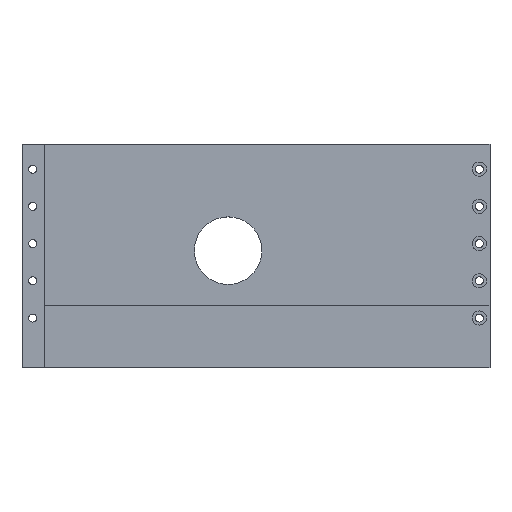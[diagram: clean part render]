
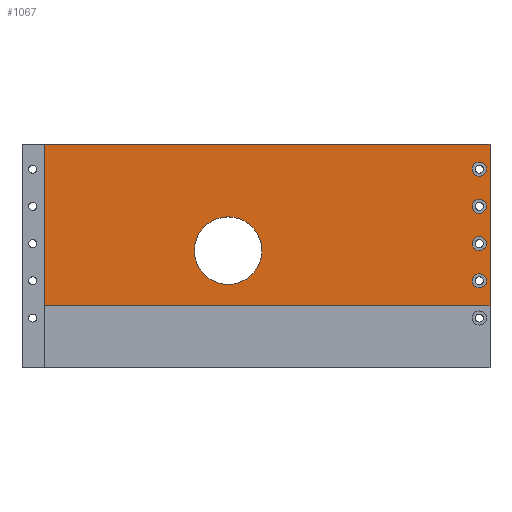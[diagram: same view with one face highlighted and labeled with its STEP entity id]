
A CAD part, top view. The second image highlights one B-rep face of the part: STEP entity #1067.
In plain terms, the highlighted planar face has unit normal (0, 0, 1).
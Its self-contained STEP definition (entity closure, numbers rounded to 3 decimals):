
#31=LINE('',#1819,#61);
#38=LINE('',#1832,#68);
#42=LINE('',#1851,#72);
#44=LINE('',#1858,#74);
#61=VECTOR('',#1524,91.);
#68=VECTOR('',#1537,251.5);
#72=VECTOR('',#1561,251.5);
#74=VECTOR('',#1571,91.);
#95=PLANE('',#1226);
#181=FACE_BOUND('',#466,.T.);
#182=FACE_BOUND('',#467,.T.);
#183=FACE_BOUND('',#468,.T.);
#184=FACE_BOUND('',#469,.T.);
#185=FACE_BOUND('',#470,.T.);
#302=FACE_OUTER_BOUND('',#465,.T.);
#465=EDGE_LOOP('',(#957,#958,#959,#960));
#466=EDGE_LOOP('',(#961));
#467=EDGE_LOOP('',(#962));
#468=EDGE_LOOP('',(#963));
#469=EDGE_LOOP('',(#964));
#470=EDGE_LOOP('',(#965));
#484=CIRCLE('',#1095,4.);
#488=CIRCLE('',#1102,4.);
#496=CIRCLE('',#1116,4.);
#500=CIRCLE('',#1123,4.);
#549=CIRCLE('',#1225,19.05);
#562=VERTEX_POINT('',#1611);
#566=VERTEX_POINT('',#1622);
#574=VERTEX_POINT('',#1644);
#578=VERTEX_POINT('',#1655);
#636=VERTEX_POINT('',#1815);
#638=VERTEX_POINT('',#1818);
#641=VERTEX_POINT('',#1831);
#646=VERTEX_POINT('',#1849);
#647=VERTEX_POINT('',#1855);
#660=EDGE_CURVE('',#562,#562,#484,.T.);
#664=EDGE_CURVE('',#566,#566,#488,.T.);
#672=EDGE_CURVE('',#574,#574,#496,.T.);
#676=EDGE_CURVE('',#578,#578,#500,.T.);
#738=EDGE_CURVE('',#638,#636,#31,.T.);
#745=EDGE_CURVE('',#638,#641,#38,.T.);
#752=EDGE_CURVE('',#636,#646,#42,.T.);
#754=EDGE_CURVE('',#647,#647,#549,.T.);
#755=EDGE_CURVE('',#641,#646,#44,.T.);
#957=ORIENTED_EDGE('',*,*,#738,.T.);
#958=ORIENTED_EDGE('',*,*,#752,.T.);
#959=ORIENTED_EDGE('',*,*,#755,.F.);
#960=ORIENTED_EDGE('',*,*,#745,.F.);
#961=ORIENTED_EDGE('',*,*,#660,.T.);
#962=ORIENTED_EDGE('',*,*,#664,.T.);
#963=ORIENTED_EDGE('',*,*,#672,.T.);
#964=ORIENTED_EDGE('',*,*,#676,.T.);
#965=ORIENTED_EDGE('',*,*,#754,.T.);
#1067=ADVANCED_FACE('',(#302,#181,#182,#183,#184,#185),#95,.T.);
#1095=AXIS2_PLACEMENT_3D('',#1612,#1278,#1279);
#1102=AXIS2_PLACEMENT_3D('',#1623,#1292,#1293);
#1116=AXIS2_PLACEMENT_3D('',#1645,#1320,#1321);
#1123=AXIS2_PLACEMENT_3D('',#1656,#1334,#1335);
#1225=AXIS2_PLACEMENT_3D('',#1856,#1567,#1568);
#1226=AXIS2_PLACEMENT_3D('',#1857,#1569,#1570);
#1278=DIRECTION('center_axis',(0.,0.,-1.));
#1279=DIRECTION('ref_axis',(1.,0.,0.));
#1292=DIRECTION('center_axis',(0.,0.,-1.));
#1293=DIRECTION('ref_axis',(1.,0.,0.));
#1320=DIRECTION('center_axis',(0.,0.,-1.));
#1321=DIRECTION('ref_axis',(1.,0.,0.));
#1334=DIRECTION('center_axis',(0.,0.,-1.));
#1335=DIRECTION('ref_axis',(1.,0.,0.));
#1524=DIRECTION('',(0.,-1.,0.));
#1537=DIRECTION('',(1.,0.,0.));
#1561=DIRECTION('',(1.,0.,0.));
#1567=DIRECTION('center_axis',(0.,0.,-1.));
#1568=DIRECTION('ref_axis',(1.,0.,0.));
#1569=DIRECTION('center_axis',(0.,0.,1.));
#1570=DIRECTION('ref_axis',(0.,-1.,0.));
#1571=DIRECTION('',(0.,-1.,0.));
#1611=CARTESIAN_POINT('',(262.,91.,15.));
#1612=CARTESIAN_POINT('Origin',(258.,91.,15.));
#1622=CARTESIAN_POINT('',(262.,49.,15.));
#1623=CARTESIAN_POINT('Origin',(258.,49.,15.));
#1644=CARTESIAN_POINT('',(262.,70.,15.));
#1645=CARTESIAN_POINT('Origin',(258.,70.,15.));
#1655=CARTESIAN_POINT('',(262.,112.,15.));
#1656=CARTESIAN_POINT('Origin',(258.,112.,15.));
#1815=CARTESIAN_POINT('',(12.5,35.,15.));
#1818=CARTESIAN_POINT('',(12.5,126.,15.));
#1819=CARTESIAN_POINT('',(12.5,126.,15.));
#1831=CARTESIAN_POINT('',(264.,126.,15.));
#1832=CARTESIAN_POINT('',(0.,126.,15.));
#1849=CARTESIAN_POINT('',(264.,35.,15.));
#1851=CARTESIAN_POINT('',(132.,35.,15.));
#1855=CARTESIAN_POINT('',(97.25,66.,15.));
#1856=CARTESIAN_POINT('Origin',(116.3,66.,15.));
#1857=CARTESIAN_POINT('Origin',(0.,126.,15.));
#1858=CARTESIAN_POINT('',(264.,0.,15.));
